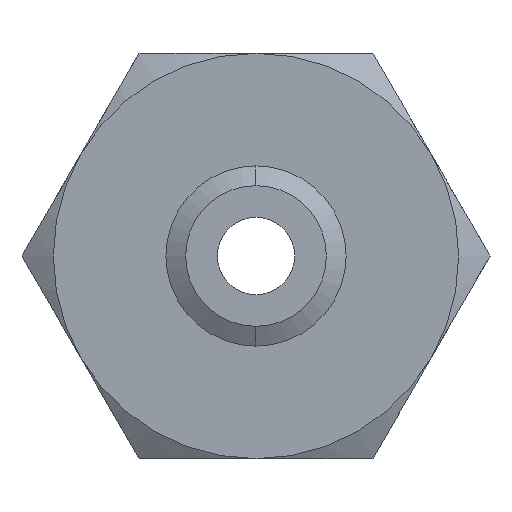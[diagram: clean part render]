
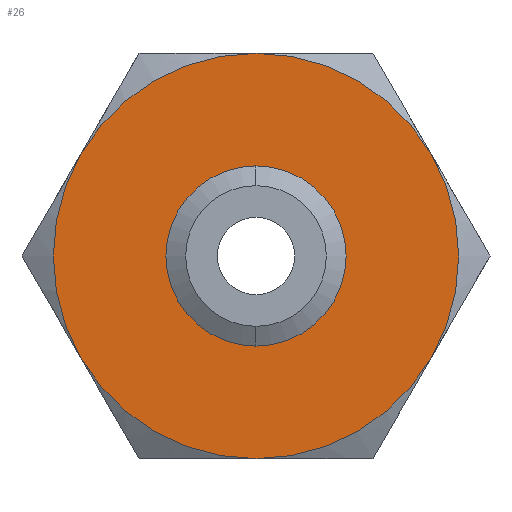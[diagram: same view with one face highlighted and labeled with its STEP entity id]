
A CAD part, front view. The second image highlights one B-rep face of the part: STEP entity #26.
In plain terms, the highlighted planar face has unit normal (0, -1, 0).
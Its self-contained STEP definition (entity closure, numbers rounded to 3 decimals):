
#6 = EDGE_CURVE ( 'NONE', #1931, #1921, #357, .T. ) ;
#7 = EDGE_LOOP ( 'NONE', ( #8, #9 ) ) ;
#8 = ORIENTED_EDGE ( 'NONE', *, *, #326, .F. ) ;
#9 = ORIENTED_EDGE ( 'NONE', *, *, #10, .F. ) ;
#10 = EDGE_CURVE ( 'NONE', #328, #327, #352, .T. ) ;
#12 = ORIENTED_EDGE ( 'NONE', *, *, #13, .F. ) ;
#13 = EDGE_CURVE ( 'NONE', #1932, #1936, #344, .T. ) ;
#15 = EDGE_LOOP ( 'NONE', ( #27, #12, #1916, #1883, #1924, #1918 ) ) ;
#26 = ADVANCED_FACE ( 'NONE', ( #383, #382 ), #381, .F. ) ;
#27 = ORIENTED_EDGE ( 'NONE', *, *, #28, .F. ) ;
#28 = EDGE_CURVE ( 'NONE', #1936, #1931, #378, .T. ) ;
#326 = EDGE_CURVE ( 'NONE', #327, #328, #1037, .T. ) ;
#327 = VERTEX_POINT ( 'NONE', #1027 ) ;
#328 = VERTEX_POINT ( 'NONE', #1026 ) ;
#337 = DIRECTION ( 'NONE',  ( 0., 0., 1. ) ) ;
#338 = DIRECTION ( 'NONE',  ( 0., 1., 0. ) ) ;
#339 = CARTESIAN_POINT ( 'NONE',  ( 0., 0., 0. ) ) ;
#340 = AXIS2_PLACEMENT_3D ( 'NONE', #339, #338, #337 ) ;
#344 = CIRCLE ( 'NONE', #340, 25. ) ;
#349 = DIRECTION ( 'NONE',  ( 0., 0., -1. ) ) ;
#350 = DIRECTION ( 'NONE',  ( 0., -1., 0. ) ) ;
#351 = AXIS2_PLACEMENT_3D ( 'NONE', #358, #350, #349 ) ;
#352 = CIRCLE ( 'NONE', #351, 8.673 ) ;
#353 = DIRECTION ( 'NONE',  ( 0., 0., 1. ) ) ;
#354 = DIRECTION ( 'NONE',  ( 0., 1., 0. ) ) ;
#355 = CARTESIAN_POINT ( 'NONE',  ( 0., 0., 0. ) ) ;
#356 = AXIS2_PLACEMENT_3D ( 'NONE', #355, #354, #353 ) ;
#357 = CIRCLE ( 'NONE', #356, 25. ) ;
#358 = CARTESIAN_POINT ( 'NONE',  ( 0., 0., 0. ) ) ;
#372 = DIRECTION ( 'NONE',  ( 0., 0., 1. ) ) ;
#373 = DIRECTION ( 'NONE',  ( 0., 1., 0. ) ) ;
#374 = CARTESIAN_POINT ( 'NONE',  ( 0., 0., 0. ) ) ;
#375 = AXIS2_PLACEMENT_3D ( 'NONE', #374, #373, #372 ) ;
#376 = DIRECTION ( 'NONE',  ( 0., 0., 1. ) ) ;
#377 = DIRECTION ( 'NONE',  ( 0., 1., 0. ) ) ;
#378 = CIRCLE ( 'NONE', #375, 25. ) ;
#379 = CARTESIAN_POINT ( 'NONE',  ( 14.434, 0., -25. ) ) ;
#380 = AXIS2_PLACEMENT_3D ( 'NONE', #379, #377, #376 ) ;
#381 = PLANE ( 'NONE',  #380 ) ;
#382 = FACE_BOUND ( 'NONE', #7, .T. ) ;
#383 = FACE_OUTER_BOUND ( 'NONE', #15, .T. ) ;
#1026 = CARTESIAN_POINT ( 'NONE',  ( 0., 0., 8.673 ) ) ;
#1027 = CARTESIAN_POINT ( 'NONE',  ( 0., 0., -8.673 ) ) ;
#1028 = DIRECTION ( 'NONE',  ( 0., 0., -1. ) ) ;
#1029 = DIRECTION ( 'NONE',  ( 0., -1., 0. ) ) ;
#1030 = CARTESIAN_POINT ( 'NONE',  ( 0., 0., 0. ) ) ;
#1031 = AXIS2_PLACEMENT_3D ( 'NONE', #1030, #1029, #1028 ) ;
#1037 = CIRCLE ( 'NONE', #1031, 8.673 ) ;
#1425 = CARTESIAN_POINT ( 'NONE',  ( -21.651, 0., -12.5 ) ) ;
#1515 = CARTESIAN_POINT ( 'NONE',  ( 0., 0., 25. ) ) ;
#1516 = CARTESIAN_POINT ( 'NONE',  ( -21.651, 0., 12.5 ) ) ;
#1517 = CARTESIAN_POINT ( 'NONE',  ( 21.651, 0., 12.5 ) ) ;
#1523 = DIRECTION ( 'NONE',  ( 0., 0., 1. ) ) ;
#1524 = DIRECTION ( 'NONE',  ( 0., 1., 0. ) ) ;
#1525 = CARTESIAN_POINT ( 'NONE',  ( 0., 0., 0. ) ) ;
#1526 = AXIS2_PLACEMENT_3D ( 'NONE', #1525, #1524, #1523 ) ;
#1527 = CIRCLE ( 'NONE', #1526, 25. ) ;
#1528 = DIRECTION ( 'NONE',  ( 0., 0., 1. ) ) ;
#1529 = DIRECTION ( 'NONE',  ( 0., 1., 0. ) ) ;
#1530 = CARTESIAN_POINT ( 'NONE',  ( 0., 0., 0. ) ) ;
#1531 = AXIS2_PLACEMENT_3D ( 'NONE', #1530, #1529, #1528 ) ;
#1532 = CIRCLE ( 'NONE', #1531, 25. ) ;
#1533 = CARTESIAN_POINT ( 'NONE',  ( 0., 0., -25. ) ) ;
#1539 = CARTESIAN_POINT ( 'NONE',  ( 21.651, 0., -12.5 ) ) ;
#1540 = DIRECTION ( 'NONE',  ( 0., 0., 1. ) ) ;
#1541 = DIRECTION ( 'NONE',  ( 0., 1., 0. ) ) ;
#1542 = CARTESIAN_POINT ( 'NONE',  ( 0., 0., 0. ) ) ;
#1543 = AXIS2_PLACEMENT_3D ( 'NONE', #1542, #1541, #1540 ) ;
#1544 = CIRCLE ( 'NONE', #1543, 25. ) ;
#1882 = VERTEX_POINT ( 'NONE', #1425 ) ;
#1883 = ORIENTED_EDGE ( 'NONE', *, *, #1923, .F. ) ;
#1916 = ORIENTED_EDGE ( 'NONE', *, *, #1917, .F. ) ;
#1917 = EDGE_CURVE ( 'NONE', #1882, #1932, #1544, .T. ) ;
#1918 = ORIENTED_EDGE ( 'NONE', *, *, #6, .F. ) ;
#1921 = VERTEX_POINT ( 'NONE', #1539 ) ;
#1922 = VERTEX_POINT ( 'NONE', #1533 ) ;
#1923 = EDGE_CURVE ( 'NONE', #1922, #1882, #1532, .T. ) ;
#1924 = ORIENTED_EDGE ( 'NONE', *, *, #1925, .F. ) ;
#1925 = EDGE_CURVE ( 'NONE', #1921, #1922, #1527, .T. ) ;
#1931 = VERTEX_POINT ( 'NONE', #1517 ) ;
#1932 = VERTEX_POINT ( 'NONE', #1516 ) ;
#1936 = VERTEX_POINT ( 'NONE', #1515 ) ;
